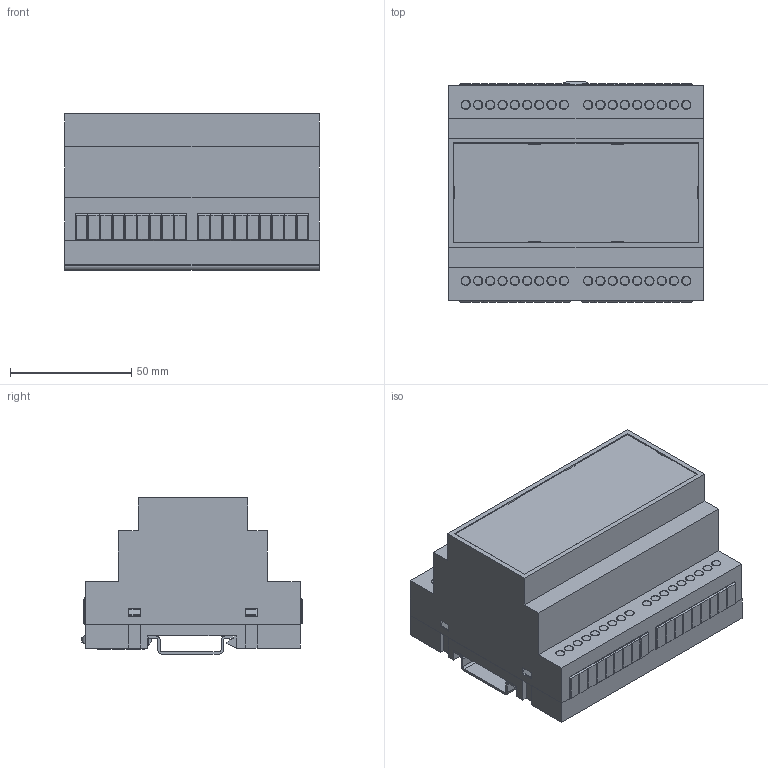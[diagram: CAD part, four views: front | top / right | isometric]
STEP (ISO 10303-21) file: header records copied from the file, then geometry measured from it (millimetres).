
FILE_DESCRIPTION(('STEP AP203'), '1');
FILE_NAME('161 膰豵鵨', '', ('UNSPECIFIED'), ('UNSPECIFIED'), 'ASCON STEP Converter 1.6', 'ASCON Math Kernel', '');
FILE_SCHEMA(('CONFIG_CONTROL_DESIGN'));
Length unit declared in the file: millimetre
Products named in the file (7): Корпус-1; Днище-1; Заглушка-1; Крышка-1
Assembly tree (9 placements, depth 2):
  (unnamed)
    Корпус-1
    Днище-1
    Заглушка-1  x4
    Крышка-1
    (unnamed)
    (unnamed)
Bounding box: 105 x 90.7 x 64.4 mm (x, y, z)
Volume: 88477.8 mm3; surface area: 108141.2 mm2
Topology: 9 solids, 9 shells, 1783 faces, 4865 edges, 3176 vertices
Faces by surface type: plane 1467, cylinder 303, torus 8, revolution 2, bspline 2, cone 1
Full cylindrical faces by diameter (mm): 3.45 x36, 3.8 x36, 5 x4
Entity records: 38499 total; most frequent: CARTESIAN_POINT 5700, ORIENTED_EDGE 5222, DIRECTION 4859, EDGE_CURVE 2611, LINE 2245, VECTOR 2245, VERTEX_POINT 1742, AXIS2_PLACEMENT_3D 1306
